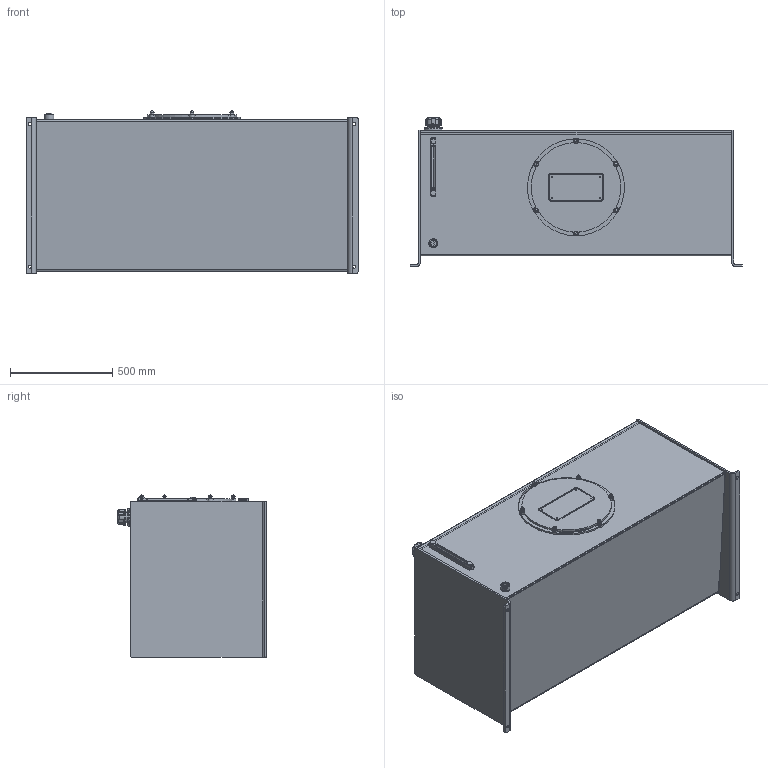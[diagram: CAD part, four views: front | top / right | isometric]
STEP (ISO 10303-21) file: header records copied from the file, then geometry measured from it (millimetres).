
FILE_DESCRIPTION (( 'STEP AP203' ), '1' );
FILE_NAME ('RDIN150-CFA.STEP', '2018-03-02T19:06:10', ( 'Windows User' ), ( '' ), 'SwSTEP 2.0', 'SolidWorks 2017', '' );
FILE_SCHEMA (( 'CONFIG_CONTROL_DESIGN' ));
Length unit declared in the file: inch
Products named in the file (21): NAC100-15; FB-C-H_FB-H008W; FB-F008_FB-F-008; RDIN150-CFA-TOP; REC-M475C; WFZM010; RDIN150-CFA-BODY_RJIC020-BODY; QSTSBUR00080008; RDIN150-CFA-REND; Weld Riser; RHJ-PLUG-016; RDIN150-CFA; RDIN150-CFA-LEND; S16; BHS8100-15350; FB-H008W; RHJ-PLUG-200; 8162-010-2_4534K46; REC-M475K; PLLG-10T; FB-S-W
Assembly tree (36 placements, depth 3):
  RHJ-PLUG-016
  RDIN150-CFA
    RDIN150-CFA-BODY_RJIC020-BODY
    RDIN150-CFA-LEND
    RDIN150-CFA-REND
    RDIN150-CFA-TOP
    QSTSBUR00080008  x4
    Weld Riser
    S16
    BHS8100-15350  x6
    FB-H008W
      FB-F008_FB-F-008
      FB-S-W
      FB-C-H_FB-H008W
    REC-M475K
      REC-M475C
      NAC100-15  x6
      WFZM010  x6
    PLLG-10T
    8162-010-2_4534K46
  RHJ-PLUG-200
Bounding box: 1625.6 x 729.87 x 795.44 mm (x, y, z)
Volume: 31707646.4 mm3; surface area: 10820844 mm2
Topology: 37 solids, 37 shells, 1228 faces, 2875 edges, 1707 vertices
Faces by surface type: cylinder 413, plane 383, cone 190, bspline 100, torus 94, sphere 48
Entity records: 34967 total; most frequent: CARTESIAN_POINT 9606, DIRECTION 5014, ORIENTED_EDGE 4602, EDGE_CURVE 2301, AXIS2_PLACEMENT_3D 2047, VERTEX_POINT 1383, CIRCLE 1121, EDGE_LOOP 1108
